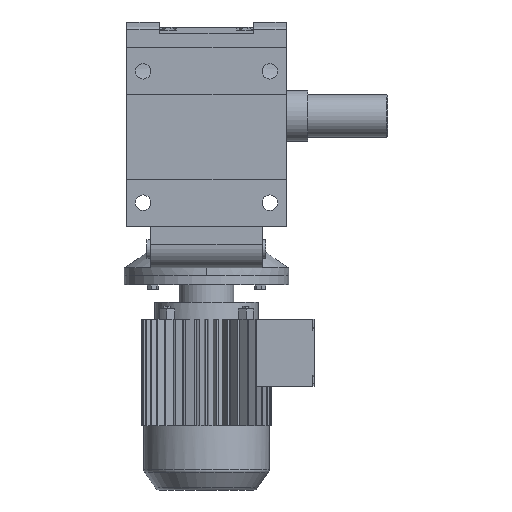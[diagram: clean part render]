
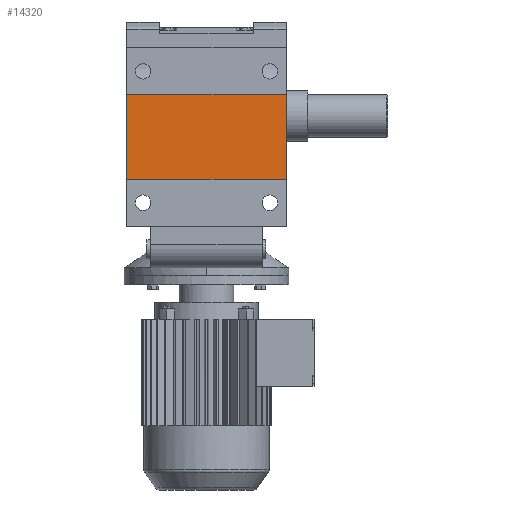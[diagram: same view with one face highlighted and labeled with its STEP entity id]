
A CAD part, front view. The second image highlights one B-rep face of the part: STEP entity #14320.
In plain terms, the highlighted planar face has unit normal (0, -1, 0).
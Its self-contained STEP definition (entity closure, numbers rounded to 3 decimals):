
#564 = PLANE('',#565);
#565 = AXIS2_PLACEMENT_3D('',#566,#567,#568);
#566 = CARTESIAN_POINT('',(170.,-258.975,155.));
#567 = DIRECTION('',(1.,0.,0.));
#568 = DIRECTION('',(0.,0.,-1.));
#3614 = VERTEX_POINT('',#3615);
#3615 = CARTESIAN_POINT('',(170.,-303.975,45.));
#3629 = PLANE('',#3630);
#3630 = AXIS2_PLACEMENT_3D('',#3631,#3632,#3633);
#3631 = CARTESIAN_POINT('',(170.,-303.975,45.));
#3632 = DIRECTION('',(0.,0.,1.));
#3633 = DIRECTION('',(0.,-1.,0.));
#3641 = EDGE_CURVE('',#3614,#3642,#3644,.T.);
#3642 = VERTEX_POINT('',#3643);
#3643 = CARTESIAN_POINT('',(170.,-303.975,-135.));
#3644 = SURFACE_CURVE('',#3645,(#3649,#3656),.PCURVE_S1.);
#3645 = LINE('',#3646,#3647);
#3646 = CARTESIAN_POINT('',(170.,-303.975,45.));
#3647 = VECTOR('',#3648,1.);
#3648 = DIRECTION('',(0.,0.,-1.));
#3649 = PCURVE('',#564,#3650);
#3650 = DEFINITIONAL_REPRESENTATION('',(#3651),#3655);
#3651 = LINE('',#3652,#3653);
#3652 = CARTESIAN_POINT('',(110.,-45.));
#3653 = VECTOR('',#3654,1.);
#3654 = DIRECTION('',(1.,0.));
#3655 = ( GEOMETRIC_REPRESENTATION_CONTEXT(2) 
PARAMETRIC_REPRESENTATION_CONTEXT() REPRESENTATION_CONTEXT('2D SPACE',''
  ) );
#3656 = PCURVE('',#3657,#3662);
#3657 = PLANE('',#3658);
#3658 = AXIS2_PLACEMENT_3D('',#3659,#3660,#3661);
#3659 = CARTESIAN_POINT('',(118.5,-303.975,160.));
#3660 = DIRECTION('',(0.,1.,0.));
#3661 = DIRECTION('',(0.,0.,1.));
#3662 = DEFINITIONAL_REPRESENTATION('',(#3663),#3667);
#3663 = LINE('',#3664,#3665);
#3664 = CARTESIAN_POINT('',(-115.,51.5));
#3665 = VECTOR('',#3666,1.);
#3666 = DIRECTION('',(-1.,0.));
#3667 = ( GEOMETRIC_REPRESENTATION_CONTEXT(2) 
PARAMETRIC_REPRESENTATION_CONTEXT() REPRESENTATION_CONTEXT('2D SPACE',''
  ) );
#3685 = PLANE('',#3686);
#3686 = AXIS2_PLACEMENT_3D('',#3687,#3688,#3689);
#3687 = CARTESIAN_POINT('',(170.,-303.975,-135.));
#3688 = DIRECTION('',(0.,0.,-1.));
#3689 = DIRECTION('',(-1.,0.,0.));
#6867 = PLANE('',#6868);
#6868 = AXIS2_PLACEMENT_3D('',#6869,#6870,#6871);
#6869 = CARTESIAN_POINT('',(-170.,-258.975,155.));
#6870 = DIRECTION('',(1.,0.,0.));
#6871 = DIRECTION('',(0.,0.,-1.));
#14276 = VERTEX_POINT('',#14277);
#14277 = CARTESIAN_POINT('',(-170.,-303.975,-135.));
#14300 = EDGE_CURVE('',#3642,#14276,#14301,.T.);
#14301 = SURFACE_CURVE('',#14302,(#14306,#14313),.PCURVE_S1.);
#14302 = LINE('',#14303,#14304);
#14303 = CARTESIAN_POINT('',(170.,-303.975,-135.));
#14304 = VECTOR('',#14305,1.);
#14305 = DIRECTION('',(-1.,0.,0.));
#14306 = PCURVE('',#3685,#14307);
#14307 = DEFINITIONAL_REPRESENTATION('',(#14308),#14312);
#14308 = LINE('',#14309,#14310);
#14309 = CARTESIAN_POINT('',(0.,0.));
#14310 = VECTOR('',#14311,1.);
#14311 = DIRECTION('',(1.,0.));
#14312 = ( GEOMETRIC_REPRESENTATION_CONTEXT(2) 
PARAMETRIC_REPRESENTATION_CONTEXT() REPRESENTATION_CONTEXT('2D SPACE',''
  ) );
#14313 = PCURVE('',#3657,#14314);
#14314 = DEFINITIONAL_REPRESENTATION('',(#14315),#14319);
#14315 = LINE('',#14316,#14317);
#14316 = CARTESIAN_POINT('',(-295.,51.5));
#14317 = VECTOR('',#14318,1.);
#14318 = DIRECTION('',(0.,-1.));
#14319 = ( GEOMETRIC_REPRESENTATION_CONTEXT(2) 
PARAMETRIC_REPRESENTATION_CONTEXT() REPRESENTATION_CONTEXT('2D SPACE',''
  ) );
#14320 = ADVANCED_FACE('',(#14321),#3657,.F.);
#14321 = FACE_BOUND('',#14322,.T.);
#14322 = EDGE_LOOP('',(#14323,#14346,#14367,#14368));
#14323 = ORIENTED_EDGE('',*,*,#14324,.T.);
#14324 = EDGE_CURVE('',#3614,#14325,#14327,.T.);
#14325 = VERTEX_POINT('',#14326);
#14326 = CARTESIAN_POINT('',(-170.,-303.975,45.));
#14327 = SURFACE_CURVE('',#14328,(#14332,#14339),.PCURVE_S1.);
#14328 = LINE('',#14329,#14330);
#14329 = CARTESIAN_POINT('',(170.,-303.975,45.));
#14330 = VECTOR('',#14331,1.);
#14331 = DIRECTION('',(-1.,0.,0.));
#14332 = PCURVE('',#3657,#14333);
#14333 = DEFINITIONAL_REPRESENTATION('',(#14334),#14338);
#14334 = LINE('',#14335,#14336);
#14335 = CARTESIAN_POINT('',(-115.,51.5));
#14336 = VECTOR('',#14337,1.);
#14337 = DIRECTION('',(0.,-1.));
#14338 = ( GEOMETRIC_REPRESENTATION_CONTEXT(2) 
PARAMETRIC_REPRESENTATION_CONTEXT() REPRESENTATION_CONTEXT('2D SPACE',''
  ) );
#14339 = PCURVE('',#3629,#14340);
#14340 = DEFINITIONAL_REPRESENTATION('',(#14341),#14345);
#14341 = LINE('',#14342,#14343);
#14342 = CARTESIAN_POINT('',(0.,0.));
#14343 = VECTOR('',#14344,1.);
#14344 = DIRECTION('',(0.,-1.));
#14345 = ( GEOMETRIC_REPRESENTATION_CONTEXT(2) 
PARAMETRIC_REPRESENTATION_CONTEXT() REPRESENTATION_CONTEXT('2D SPACE',''
  ) );
#14346 = ORIENTED_EDGE('',*,*,#14347,.T.);
#14347 = EDGE_CURVE('',#14325,#14276,#14348,.T.);
#14348 = SURFACE_CURVE('',#14349,(#14353,#14360),.PCURVE_S1.);
#14349 = LINE('',#14350,#14351);
#14350 = CARTESIAN_POINT('',(-170.,-303.975,45.));
#14351 = VECTOR('',#14352,1.);
#14352 = DIRECTION('',(0.,0.,-1.));
#14353 = PCURVE('',#3657,#14354);
#14354 = DEFINITIONAL_REPRESENTATION('',(#14355),#14359);
#14355 = LINE('',#14356,#14357);
#14356 = CARTESIAN_POINT('',(-115.,-288.5));
#14357 = VECTOR('',#14358,1.);
#14358 = DIRECTION('',(-1.,0.));
#14359 = ( GEOMETRIC_REPRESENTATION_CONTEXT(2) 
PARAMETRIC_REPRESENTATION_CONTEXT() REPRESENTATION_CONTEXT('2D SPACE',''
  ) );
#14360 = PCURVE('',#6867,#14361);
#14361 = DEFINITIONAL_REPRESENTATION('',(#14362),#14366);
#14362 = LINE('',#14363,#14364);
#14363 = CARTESIAN_POINT('',(110.,-45.));
#14364 = VECTOR('',#14365,1.);
#14365 = DIRECTION('',(1.,0.));
#14366 = ( GEOMETRIC_REPRESENTATION_CONTEXT(2) 
PARAMETRIC_REPRESENTATION_CONTEXT() REPRESENTATION_CONTEXT('2D SPACE',''
  ) );
#14367 = ORIENTED_EDGE('',*,*,#14300,.F.);
#14368 = ORIENTED_EDGE('',*,*,#3641,.F.);
